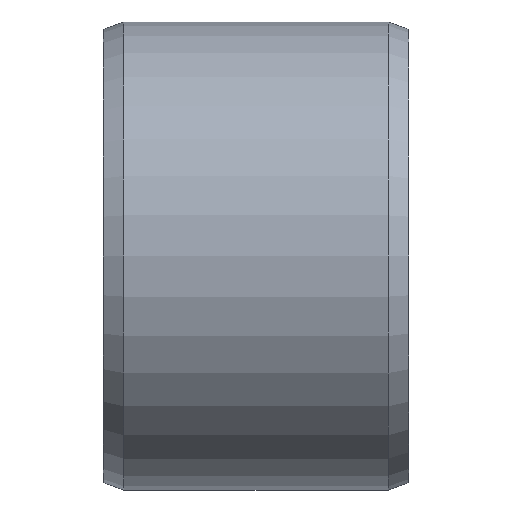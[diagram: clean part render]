
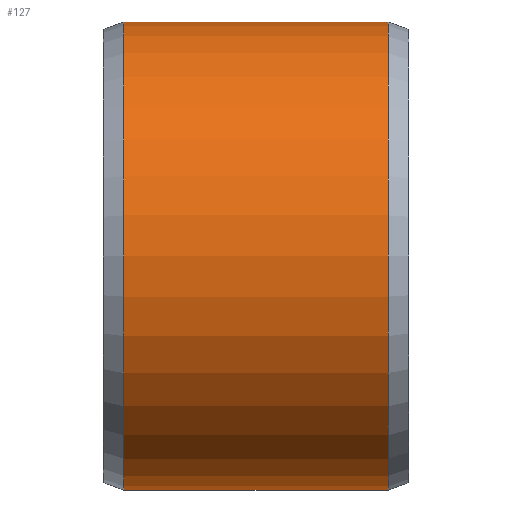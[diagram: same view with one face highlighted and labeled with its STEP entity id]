
A CAD part, front view. The second image highlights one B-rep face of the part: STEP entity #127.
In plain terms, the highlighted cylindrical face has radius 11.5 mm (diameter 23 mm), a full revolution.
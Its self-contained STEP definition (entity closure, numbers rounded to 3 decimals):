
#16=CYLINDRICAL_SURFACE('',#164,11.5);
#25=FACE_OUTER_BOUND('',#34,.T.);
#34=EDGE_LOOP('',(#102,#103,#104,#105,#106,#107));
#42=LINE('',#241,#48);
#48=VECTOR('',#203,11.5);
#55=CIRCLE('',#162,11.5);
#56=CIRCLE('',#163,11.5);
#57=CIRCLE('',#165,11.5);
#58=CIRCLE('',#166,11.5);
#65=VERTEX_POINT('',#231);
#66=VERTEX_POINT('',#233);
#67=VERTEX_POINT('',#237);
#68=VERTEX_POINT('',#238);
#78=EDGE_CURVE('',#65,#66,#55,.T.);
#79=EDGE_CURVE('',#66,#65,#56,.T.);
#80=EDGE_CURVE('',#67,#68,#57,.T.);
#81=EDGE_CURVE('',#68,#67,#58,.T.);
#82=EDGE_CURVE('',#68,#66,#42,.T.);
#102=ORIENTED_EDGE('',*,*,#80,.F.);
#103=ORIENTED_EDGE('',*,*,#81,.F.);
#104=ORIENTED_EDGE('',*,*,#82,.T.);
#105=ORIENTED_EDGE('',*,*,#78,.F.);
#106=ORIENTED_EDGE('',*,*,#79,.F.);
#107=ORIENTED_EDGE('',*,*,#82,.F.);
#127=ADVANCED_FACE('',(#25),#16,.T.);
#162=AXIS2_PLACEMENT_3D('',#234,#193,#194);
#163=AXIS2_PLACEMENT_3D('',#235,#195,#196);
#164=AXIS2_PLACEMENT_3D('',#236,#197,#198);
#165=AXIS2_PLACEMENT_3D('',#239,#199,#200);
#166=AXIS2_PLACEMENT_3D('',#240,#201,#202);
#193=DIRECTION('center_axis',(-1.,0.,0.));
#194=DIRECTION('ref_axis',(0.,-1.,0.));
#195=DIRECTION('center_axis',(-1.,0.,0.));
#196=DIRECTION('ref_axis',(0.,-1.,0.));
#197=DIRECTION('center_axis',(1.,0.,0.));
#198=DIRECTION('ref_axis',(0.,1.,0.));
#199=DIRECTION('center_axis',(1.,0.,0.));
#200=DIRECTION('ref_axis',(0.,-1.,0.));
#201=DIRECTION('center_axis',(1.,0.,0.));
#202=DIRECTION('ref_axis',(0.,-1.,0.));
#203=DIRECTION('',(-1.,0.,0.));
#231=CARTESIAN_POINT('',(-6.5,11.5,0.));
#233=CARTESIAN_POINT('',(-6.5,-11.5,0.));
#234=CARTESIAN_POINT('Origin',(-6.5,0.,0.));
#235=CARTESIAN_POINT('Origin',(-6.5,0.,0.));
#236=CARTESIAN_POINT('Origin',(0.,0.,0.));
#237=CARTESIAN_POINT('',(6.5,11.5,0.));
#238=CARTESIAN_POINT('',(6.5,-11.5,0.));
#239=CARTESIAN_POINT('Origin',(6.5,0.,0.));
#240=CARTESIAN_POINT('Origin',(6.5,0.,0.));
#241=CARTESIAN_POINT('',(0.,-11.5,0.));
